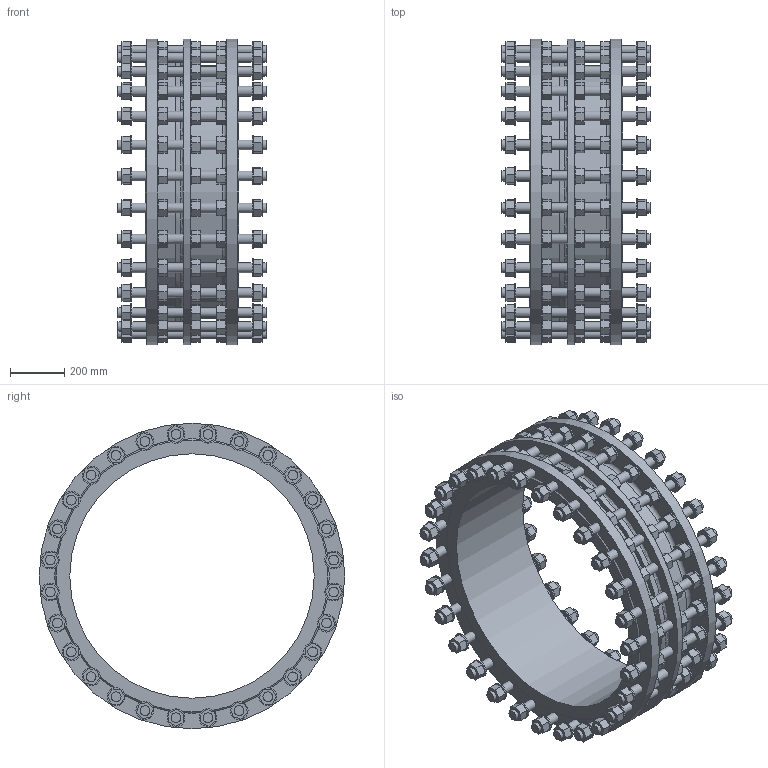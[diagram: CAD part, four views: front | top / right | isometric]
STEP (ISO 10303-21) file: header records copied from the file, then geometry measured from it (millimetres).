
FILE_DESCRIPTION (( 'STEP AP203' ), '1' );
FILE_NAME ('O_265_910_DN900_1XXXXX00_L=345_REV01.step', '2024-10-11T10:54:56', ( '' ), ( '' ), 'SwSTEP 2.0', 'SolidWorks 2022', '' );
FILE_SCHEMA (( 'CONFIG_CONTROL_DESIGN' ));
Length unit declared in the file: millimetre
Products named in the file (1): O_265_910_DN900_1XXXXX00_L=345_REV01
Bounding box: 545 x 1125 x 1125 mm (x, y, z)
Volume: 78661135.6 mm3; surface area: 5809956.4 mm2
Topology: 1 solids, 1 shells, 1628 faces, 3893 edges, 2642 vertices
Faces by surface type: plane 1280, cylinder 316, torus 29, cone 3
Full cylindrical faces by diameter (mm): 36 x168, 66 x140, 900 x1, 932 x1, 972 x1, 1125 x3
Entity records: 46156 total; most frequent: CARTESIAN_POINT 9634, DIRECTION 7273, ORIENTED_EDGE 6810, EDGE_CURVE 3405, VECTOR 2627, LINE 2627, VERTEX_POINT 2472, EDGE_LOOP 2435
